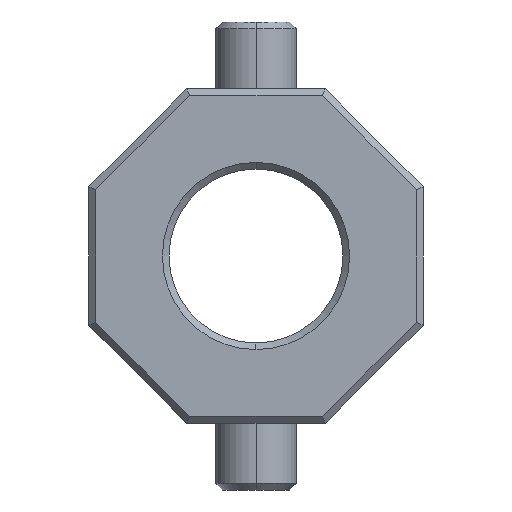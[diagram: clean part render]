
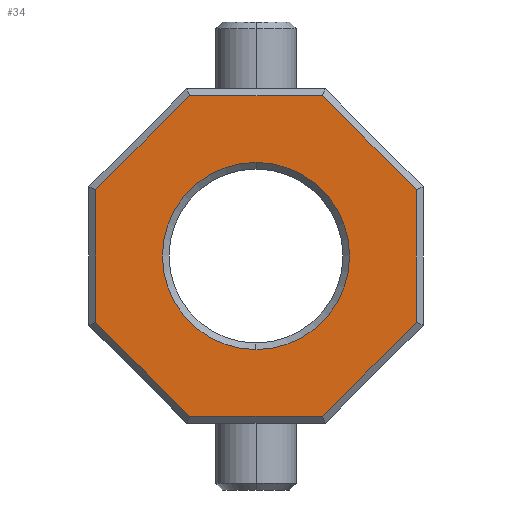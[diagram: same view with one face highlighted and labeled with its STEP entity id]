
A CAD part, left-side view. The second image highlights one B-rep face of the part: STEP entity #34.
In plain terms, the highlighted planar face has unit normal (-1, 0, 0).
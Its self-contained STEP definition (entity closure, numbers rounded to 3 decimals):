
#16 = VECTOR ( 'NONE', #560, 1000. ) ;
#26 = DIRECTION ( 'NONE',  ( 0., 0., 1. ) ) ;
#34 = ADVANCED_FACE ( 'NONE', ( #1468, #43 ), #1794, .T. ) ;
#35 = EDGE_CURVE ( 'NONE', #1994, #1516, #1635, .T. ) ;
#42 = CIRCLE ( 'NONE', #248, 14. ) ;
#43 = FACE_BOUND ( 'NONE', #1681, .T. ) ;
#65 = CARTESIAN_POINT ( 'NONE',  ( -10., 0., -14. ) ) ;
#82 = LINE ( 'NONE', #1800, #2018 ) ;
#133 = ORIENTED_EDGE ( 'NONE', *, *, #613, .T. ) ;
#159 = CARTESIAN_POINT ( 'NONE',  ( -10., 0., 24. ) ) ;
#188 = VECTOR ( 'NONE', #1637, 1000. ) ;
#248 = AXIS2_PLACEMENT_3D ( 'NONE', #608, #1242, #1872 ) ;
#257 = CARTESIAN_POINT ( 'NONE',  ( -10., -16.971, -16.971 ) ) ;
#263 = ORIENTED_EDGE ( 'NONE', *, *, #1070, .T. ) ;
#323 = VERTEX_POINT ( 'NONE', #1020 ) ;
#339 = CARTESIAN_POINT ( 'NONE',  ( -10., 24., -9.941 ) ) ;
#365 = CARTESIAN_POINT ( 'NONE',  ( -10., 16.971, 16.971 ) ) ;
#373 = DIRECTION ( 'NONE',  ( -1., 0., 0. ) ) ;
#412 = VECTOR ( 'NONE', #2058, 1000. ) ;
#420 = LINE ( 'NONE', #1987, #1579 ) ;
#449 = EDGE_CURVE ( 'NONE', #1516, #1512, #1184, .T. ) ;
#493 = VECTOR ( 'NONE', #1131, 1000. ) ;
#495 = LINE ( 'NONE', #1294, #493 ) ;
#535 = CARTESIAN_POINT ( 'NONE',  ( -10., -24., 9.941 ) ) ;
#545 = EDGE_CURVE ( 'NONE', #1234, #1145, #420, .T. ) ;
#555 = AXIS2_PLACEMENT_3D ( 'NONE', #701, #828, #26 ) ;
#560 = DIRECTION ( 'NONE',  ( 0., -0.707, 0.707 ) ) ;
#596 = LINE ( 'NONE', #1229, #623 ) ;
#597 = ORIENTED_EDGE ( 'NONE', *, *, #1261, .T. ) ;
#608 = CARTESIAN_POINT ( 'NONE',  ( -10., 0., 0. ) ) ;
#613 = EDGE_CURVE ( 'NONE', #1450, #1460, #1910, .T. ) ;
#623 = VECTOR ( 'NONE', #1826, 1000. ) ;
#630 = LINE ( 'NONE', #159, #412 ) ;
#701 = CARTESIAN_POINT ( 'NONE',  ( -10., 0., 0. ) ) ;
#717 = EDGE_CURVE ( 'NONE', #1145, #323, #596, .T. ) ;
#724 = DIRECTION ( 'NONE',  ( 0., 0., -1. ) ) ;
#828 = DIRECTION ( 'NONE',  ( 1., 0., 0. ) ) ;
#851 = CARTESIAN_POINT ( 'NONE',  ( -10., 0., 14. ) ) ;
#877 = EDGE_LOOP ( 'NONE', ( #1042, #597, #1438, #1240, #1453, #1268, #263, #1543 ) ) ;
#1011 = DIRECTION ( 'NONE',  ( 0., 0., 1. ) ) ;
#1020 = CARTESIAN_POINT ( 'NONE',  ( -10., 9.941, -24. ) ) ;
#1021 = CARTESIAN_POINT ( 'NONE',  ( -10., 0., 0. ) ) ;
#1042 = ORIENTED_EDGE ( 'NONE', *, *, #717, .T. ) ;
#1070 = EDGE_CURVE ( 'NONE', #1161, #1234, #1785, .T. ) ;
#1131 = DIRECTION ( 'NONE',  ( 0., -1., 0. ) ) ;
#1145 = VERTEX_POINT ( 'NONE', #339 ) ;
#1161 = VERTEX_POINT ( 'NONE', #1366 ) ;
#1184 = LINE ( 'NONE', #1831, #1480 ) ;
#1229 = CARTESIAN_POINT ( 'NONE',  ( -10., 16.971, -16.971 ) ) ;
#1234 = VERTEX_POINT ( 'NONE', #1697 ) ;
#1240 = ORIENTED_EDGE ( 'NONE', *, *, #449, .T. ) ;
#1242 = DIRECTION ( 'NONE',  ( 1., 0., 0. ) ) ;
#1252 = CARTESIAN_POINT ( 'NONE',  ( -10., -9.941, -24. ) ) ;
#1261 = EDGE_CURVE ( 'NONE', #323, #1994, #495, .T. ) ;
#1268 = ORIENTED_EDGE ( 'NONE', *, *, #1815, .T. ) ;
#1294 = CARTESIAN_POINT ( 'NONE',  ( -10., 0., -24. ) ) ;
#1366 = CARTESIAN_POINT ( 'NONE',  ( -10., 9.941, 24. ) ) ;
#1400 = ORIENTED_EDGE ( 'NONE', *, *, #2057, .T. ) ;
#1412 = VERTEX_POINT ( 'NONE', #1986 ) ;
#1438 = ORIENTED_EDGE ( 'NONE', *, *, #35, .T. ) ;
#1450 = VERTEX_POINT ( 'NONE', #851 ) ;
#1453 = ORIENTED_EDGE ( 'NONE', *, *, #1520, .T. ) ;
#1460 = VERTEX_POINT ( 'NONE', #65 ) ;
#1468 = FACE_OUTER_BOUND ( 'NONE', #877, .T. ) ;
#1480 = VECTOR ( 'NONE', #1811, 1000. ) ;
#1505 = CARTESIAN_POINT ( 'NONE',  ( -10., -24., -9.941 ) ) ;
#1512 = VERTEX_POINT ( 'NONE', #535 ) ;
#1516 = VERTEX_POINT ( 'NONE', #1505 ) ;
#1520 = EDGE_CURVE ( 'NONE', #1512, #1412, #82, .T. ) ;
#1543 = ORIENTED_EDGE ( 'NONE', *, *, #545, .T. ) ;
#1579 = VECTOR ( 'NONE', #724, 1000. ) ;
#1635 = LINE ( 'NONE', #257, #16 ) ;
#1637 = DIRECTION ( 'NONE',  ( 0., 0.707, -0.707 ) ) ;
#1663 = DIRECTION ( 'NONE',  ( 0., 0.707, 0.707 ) ) ;
#1681 = EDGE_LOOP ( 'NONE', ( #133, #1400 ) ) ;
#1697 = CARTESIAN_POINT ( 'NONE',  ( -10., 24., 9.941 ) ) ;
#1774 = AXIS2_PLACEMENT_3D ( 'NONE', #1021, #373, #1011 ) ;
#1785 = LINE ( 'NONE', #365, #188 ) ;
#1794 = PLANE ( 'NONE',  #1774 ) ;
#1800 = CARTESIAN_POINT ( 'NONE',  ( -10., -16.971, 16.971 ) ) ;
#1811 = DIRECTION ( 'NONE',  ( 0., 0., 1. ) ) ;
#1815 = EDGE_CURVE ( 'NONE', #1412, #1161, #630, .T. ) ;
#1826 = DIRECTION ( 'NONE',  ( 0., -0.707, -0.707 ) ) ;
#1831 = CARTESIAN_POINT ( 'NONE',  ( -10., -24., 0. ) ) ;
#1872 = DIRECTION ( 'NONE',  ( 0., 0., 1. ) ) ;
#1910 = CIRCLE ( 'NONE', #555, 14. ) ;
#1986 = CARTESIAN_POINT ( 'NONE',  ( -10., -9.941, 24. ) ) ;
#1987 = CARTESIAN_POINT ( 'NONE',  ( -10., 24., 0. ) ) ;
#1994 = VERTEX_POINT ( 'NONE', #1252 ) ;
#2018 = VECTOR ( 'NONE', #1663, 1000. ) ;
#2057 = EDGE_CURVE ( 'NONE', #1460, #1450, #42, .T. ) ;
#2058 = DIRECTION ( 'NONE',  ( 0., 1., 0. ) ) ;
